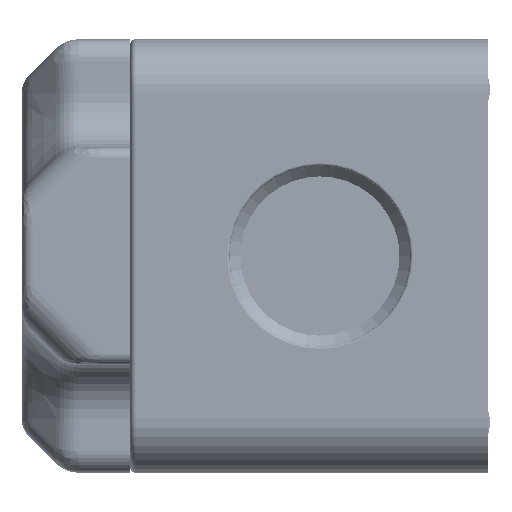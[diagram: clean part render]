
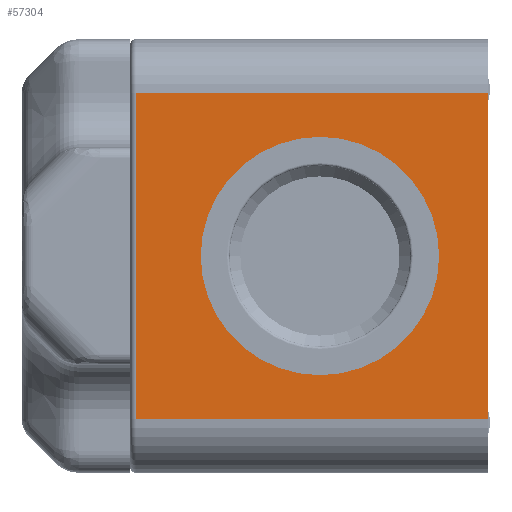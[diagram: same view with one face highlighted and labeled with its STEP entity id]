
A CAD part, left-side view. The second image highlights one B-rep face of the part: STEP entity #57304.
In plain terms, the highlighted planar face has unit normal (-1, 0, 0).
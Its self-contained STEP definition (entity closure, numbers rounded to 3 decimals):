
#48568 = VERTEX_POINT ( 'NONE', #165654 ) ;
#48570 = EDGE_CURVE ( 'NONE', #48568, #48571, #165777, .T. ) ;
#48571 = VERTEX_POINT ( 'NONE', #165770 ) ;
#50920 = VERTEX_POINT ( 'NONE', #170972 ) ;
#50924 = EDGE_CURVE ( 'NONE', #50926, #50920, #170969, .T. ) ;
#50926 = VERTEX_POINT ( 'NONE', #171077 ) ;
#57141 = ORIENTED_EDGE ( 'NONE', *, *, #57143, .T. ) ;
#57143 = EDGE_CURVE ( 'NONE', #57209, #57144, #182133, .T. ) ;
#57144 = VERTEX_POINT ( 'NONE', #182119 ) ;
#57147 = ORIENTED_EDGE ( 'NONE', *, *, #57416, .T. ) ;
#57209 = VERTEX_POINT ( 'NONE', #182297 ) ;
#57294 = EDGE_CURVE ( 'NONE', #57209, #50920, #182319, .T. ) ;
#57304 = ADVANCED_FACE ( 'NONE', ( #182313, #182312 ), #182427, .F. ) ;
#57307 = EDGE_LOOP ( 'NONE', ( #57310, #57324 ) ) ;
#57310 = ORIENTED_EDGE ( 'NONE', *, *, #57314, .F. ) ;
#57314 = EDGE_CURVE ( 'NONE', #48571, #48568, #182407, .T. ) ;
#57324 = ORIENTED_EDGE ( 'NONE', *, *, #48570, .F. ) ;
#57326 = EDGE_LOOP ( 'NONE', ( #57329, #57141, #57147, #57421 ) ) ;
#57329 = ORIENTED_EDGE ( 'NONE', *, *, #57294, .F. ) ;
#57416 = EDGE_CURVE ( 'NONE', #57144, #50926, #182552, .T. ) ;
#57421 = ORIENTED_EDGE ( 'NONE', *, *, #50924, .T. ) ;
#165654 = CARTESIAN_POINT ( 'NONE',  ( -38.25, 0., 6.5 ) ) ;
#165770 = CARTESIAN_POINT ( 'NONE',  ( -38.25, 0., 24.5 ) ) ;
#165771 = DIRECTION ( 'NONE',  ( 0., 0., 1. ) ) ;
#165772 = DIRECTION ( 'NONE',  ( -1., 0., 0. ) ) ;
#165774 = CARTESIAN_POINT ( 'NONE',  ( -38.25, 0., 15.5 ) ) ;
#165775 = AXIS2_PLACEMENT_3D ( 'NONE', #165774, #165772, #165771 ) ;
#165777 = CIRCLE ( 'NONE', #165775, 9. ) ;
#170965 = VECTOR ( 'NONE', #171079, 1000. ) ;
#170968 = CARTESIAN_POINT ( 'NONE',  ( -38.25, 15., 0. ) ) ;
#170969 = LINE ( 'NONE', #170968, #170965 ) ;
#170972 = CARTESIAN_POINT ( 'NONE',  ( -38.25, -15., 0. ) ) ;
#171077 = CARTESIAN_POINT ( 'NONE',  ( -38.25, 15., 0. ) ) ;
#171079 = DIRECTION ( 'NONE',  ( 0., -1., 0. ) ) ;
#182119 = CARTESIAN_POINT ( 'NONE',  ( -38.25, 15., 32.5 ) ) ;
#182121 = DIRECTION ( 'NONE',  ( 0., 1., 0. ) ) ;
#182122 = VECTOR ( 'NONE', #182121, 1000. ) ;
#182125 = CARTESIAN_POINT ( 'NONE',  ( -38.25, 15., 32.5 ) ) ;
#182133 = LINE ( 'NONE', #182125, #182122 ) ;
#182297 = CARTESIAN_POINT ( 'NONE',  ( -38.25, -15., 32.5 ) ) ;
#182312 = FACE_OUTER_BOUND ( 'NONE', #57326, .T. ) ;
#182313 = FACE_BOUND ( 'NONE', #57307, .T. ) ;
#182314 = DIRECTION ( 'NONE',  ( 0., 0., -1. ) ) ;
#182316 = VECTOR ( 'NONE', #182314, 1000. ) ;
#182317 = CARTESIAN_POINT ( 'NONE',  ( -38.25, -15., 36.5 ) ) ;
#182319 = LINE ( 'NONE', #182317, #182316 ) ;
#182402 = DIRECTION ( 'NONE',  ( 0., 0., 1. ) ) ;
#182403 = DIRECTION ( 'NONE',  ( -1., 0., 0. ) ) ;
#182404 = CARTESIAN_POINT ( 'NONE',  ( -38.25, 0., 15.5 ) ) ;
#182406 = AXIS2_PLACEMENT_3D ( 'NONE', #182404, #182403, #182402 ) ;
#182407 = CIRCLE ( 'NONE', #182406, 9. ) ;
#182421 = DIRECTION ( 'NONE',  ( 0., 0., -1. ) ) ;
#182424 = DIRECTION ( 'NONE',  ( 1., 0., 0. ) ) ;
#182425 = CARTESIAN_POINT ( 'NONE',  ( -38.25, 15., 36.5 ) ) ;
#182426 = AXIS2_PLACEMENT_3D ( 'NONE', #182425, #182424, #182421 ) ;
#182427 = PLANE ( 'NONE',  #182426 ) ;
#182549 = DIRECTION ( 'NONE',  ( 0., 0., -1. ) ) ;
#182550 = VECTOR ( 'NONE', #182549, 1000. ) ;
#182551 = CARTESIAN_POINT ( 'NONE',  ( -38.25, 15., 36.5 ) ) ;
#182552 = LINE ( 'NONE', #182551, #182550 ) ;
